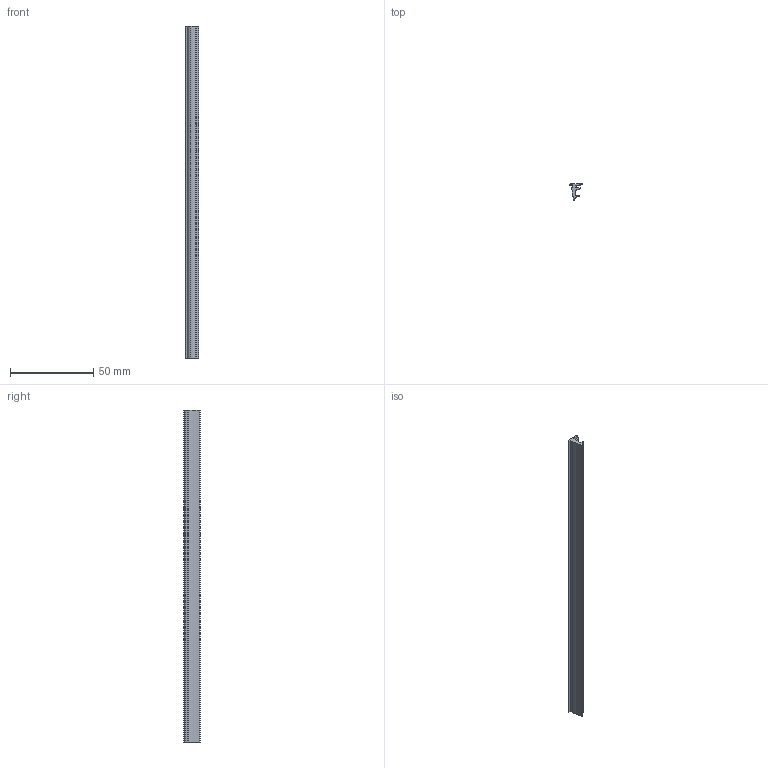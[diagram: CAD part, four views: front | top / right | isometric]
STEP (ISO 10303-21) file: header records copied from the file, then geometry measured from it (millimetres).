
FILE_DESCRIPTION(/* description */ ('Guarnizione'),/* implementation_level */ '2;1');
FILE_NAME(/* name */ 'C:\Users\Stefan.Nesic\Desktop\01010STEP\PD47RIDN.stp',/* time_stamp */ '2022-06-30T14:57:54+02:00',/* author */ ('stefan.nesic'),/* organization */ (''),/* preprocessor_version */ 'ST-DEVELOPER v18.1',/* originating_system */ 'Autodesk Inventor 2021',/* authorisation */ '');
FILE_SCHEMA (('AUTOMOTIVE_DESIGN { 1 0 10303 214 3 1 1 }'));
Length unit declared in the file: millimetre
Products named in the file (1): PD47ANERA
Bounding box: 7.83 x 9.78 x 200 mm (x, y, z)
Volume: 5321.5 mm3; surface area: 8175.4 mm2
Topology: 1 solids, 1 shells, 27 faces, 75 edges, 50 vertices
Faces by surface type: cylinder 14, plane 13
Entity records: 927 total; most frequent: DIRECTION 159, CARTESIAN_POINT 153, ORIENTED_EDGE 150, EDGE_CURVE 75, AXIS2_PLACEMENT_3D 56, VERTEX_POINT 50, LINE 47, VECTOR 47
